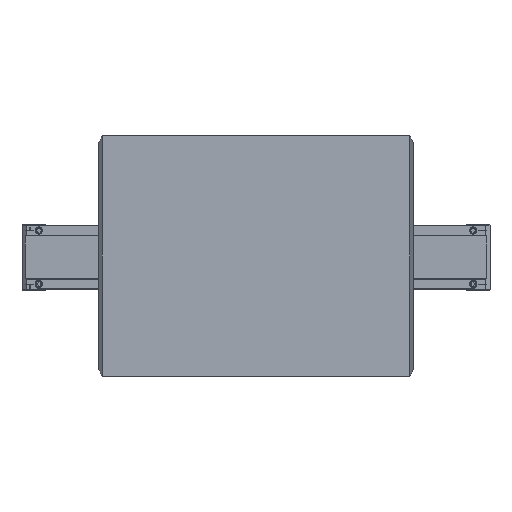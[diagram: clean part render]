
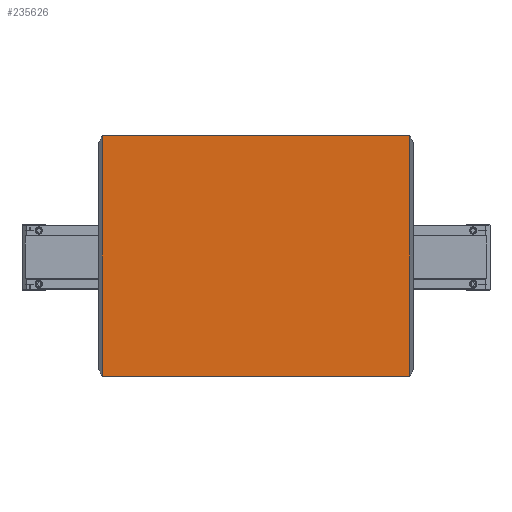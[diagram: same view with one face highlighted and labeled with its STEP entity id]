
A CAD part, top view. The second image highlights one B-rep face of the part: STEP entity #235626.
In plain terms, the highlighted planar face has unit normal (0, 0, 1).
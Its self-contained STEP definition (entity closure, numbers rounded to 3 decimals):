
#235511=DIRECTION('',(-1.,0.,0.));
#235512=VECTOR('',#235511,230.);
#235513=CARTESIAN_POINT('',(115.,90.,0.));
#235514=LINE('',#235513,#235512);
#235518=DIRECTION('',(0.,1.,0.));
#235519=VECTOR('',#235518,180.);
#235520=CARTESIAN_POINT('',(115.,-90.,0.));
#235521=LINE('',#235520,#235519);
#235560=DIRECTION('',(0.,-1.,0.));
#235561=VECTOR('',#235560,180.);
#235562=CARTESIAN_POINT('',(-115.,90.,0.));
#235563=LINE('',#235562,#235561);
#235588=DIRECTION('',(1.,0.,0.));
#235589=VECTOR('',#235588,230.);
#235590=CARTESIAN_POINT('',(-115.,-90.,0.));
#235591=LINE('',#235590,#235589);
#235596=CARTESIAN_POINT('',(115.,90.,0.));
#235598=VERTEX_POINT('',#235596);
#235600=CARTESIAN_POINT('',(-115.,90.,0.));
#235602=VERTEX_POINT('',#235600);
#235603=CARTESIAN_POINT('',(115.,-90.,0.));
#235605=VERTEX_POINT('',#235603);
#235607=CARTESIAN_POINT('',(-115.,-90.,0.));
#235609=VERTEX_POINT('',#235607);
#235611=CARTESIAN_POINT('',(-115.,-30.,0.));
#235612=DIRECTION('',(0.,0.,1.));
#235613=DIRECTION('',(1.,0.,0.));
#235614=AXIS2_PLACEMENT_3D('',#235611,#235612,#235613);
#235615=PLANE('',#235614);
#235617=ORIENTED_EDGE('',*,*,#235616,.F.);
#235619=ORIENTED_EDGE('',*,*,#235618,.F.);
#235621=ORIENTED_EDGE('',*,*,#235620,.F.);
#235623=ORIENTED_EDGE('',*,*,#235622,.F.);
#235624=EDGE_LOOP('',(#235617,#235619,#235621,#235623));
#235625=FACE_OUTER_BOUND('',#235624,.F.);
#235616=EDGE_CURVE('',#235605,#235598,#235521,.T.);
#235618=EDGE_CURVE('',#235609,#235605,#235591,.T.);
#235620=EDGE_CURVE('',#235602,#235609,#235563,.T.);
#235622=EDGE_CURVE('',#235598,#235602,#235514,.T.);
#235626=ADVANCED_FACE('',(#235625),#235615,.T.);
